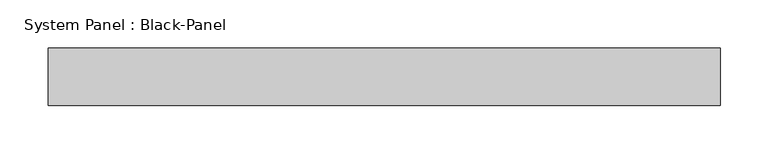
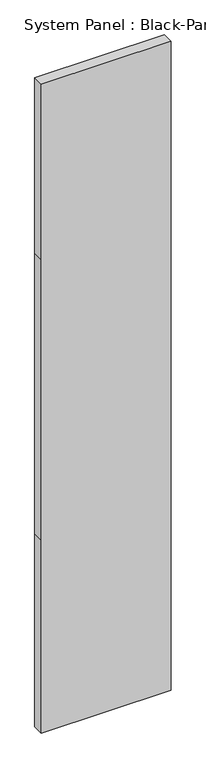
"""IFC4 building model written with IfcOpenShell, lengths in millimetres: plate geometry, System Panel : Black-Panel."""

from ifc_helpers import new_model, si_unit, frame, origin, place, context, project, spatial, polyline, outline, extrude, source, transform, mapped, element, save


def system_panel_black_panel_9e4711d2(model_context):
    return source(origin(), model_context, "Body", "SweptSolid", [
        extrude(outline(polyline([(0.0, -350.0), (0.0, 350.0), (1100.0, 350.0), (2700.0, 350.0), (3700.0, 350.0), (3700.0, -350.0), (2700.0, -350.0), (1100.0, -350.0), (0.0, -350.0)])), frame((0.0, -10.5, 0.0), z_axis=(0.0, 1.0, 0.0), x_axis=(0.0, 0.0, 1.0)), (0.0, 0.0, 1.0), 60.0),
    ])


if __name__ == "__main__":
    model = new_model("IFC4")
    model_context = context("Model", 3, world=origin())
    ifc_project = project(units=[si_unit("LENGTHUNIT", "METRE", prefix="MILLI")], contexts=[model_context])
    site = spatial("IfcSite", under=ifc_project)
    building = spatial("IfcBuilding", under=site)
    placement = place(None, origin())
    system_panel_black_panel_shape = system_panel_black_panel_9e4711d2(model_context)
    element("IfcPlate", 1, ObjectType="System Panel : Black-Panel", at=placement, inside=building, context=model_context, shape_type="MappedRepresentation", body=[
        mapped(system_panel_black_panel_shape, transform((0.0, 0.0, 0.0), x_axis=(1.0, 0.0, 0.0), y_axis=(0.0, 1.0, 0.0), z_axis=(0.0, 0.0, 1.0))),
    ])
    save(model, "model.ifc")
